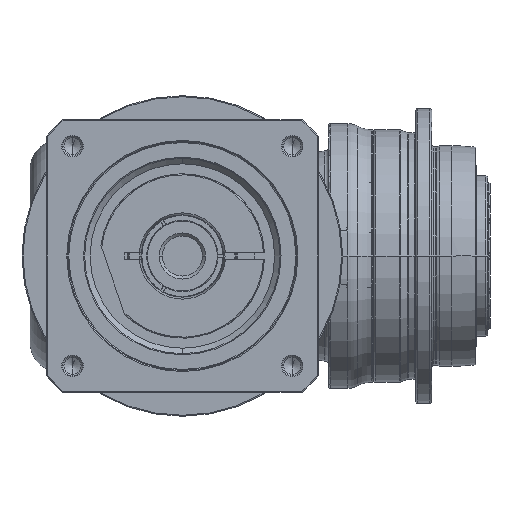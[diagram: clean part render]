
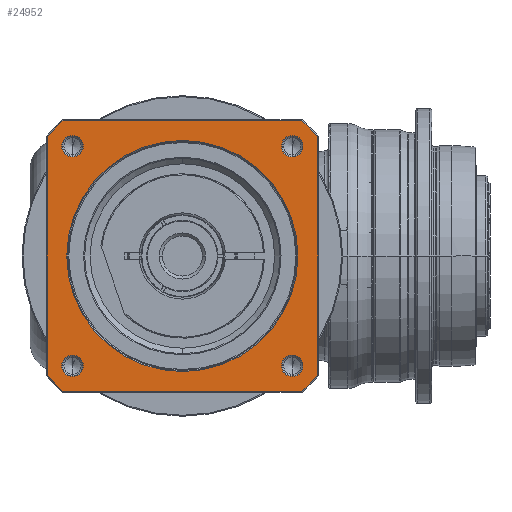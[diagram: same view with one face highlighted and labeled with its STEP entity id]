
A CAD part, front view. The second image highlights one B-rep face of the part: STEP entity #24952.
In plain terms, the highlighted planar face has unit normal (0, -1, 0) as drawn and (0, 0, 1) by its records, which use the part's own axes.
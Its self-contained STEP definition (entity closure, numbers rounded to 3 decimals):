
#23683=DIRECTION('',(1.,0.,0.));
#23684=VECTOR('',#23683,119.059);
#23685=CARTESIAN_POINT('',(-59.529,-67.5,41.));
#23686=LINE('',#23685,#23684);
#23696=CARTESIAN_POINT('',(0.,0.,
41.));
#23697=DIRECTION('',(0.,0.,-1.));
#23698=DIRECTION('',(0.,-1.,0.));
#23699=AXIS2_PLACEMENT_3D('',#23696,#23697,#23698);
#23701=CARTESIAN_POINT('',(0.,0.,
41.));
#23702=DIRECTION('',(0.,0.,-1.));
#23703=DIRECTION('',(0.,1.,0.));
#23704=AXIS2_PLACEMENT_3D('',#23701,#23702,#23703);
#23706=CARTESIAN_POINT('',(0.,0.,41.));
#23707=DIRECTION('',(0.,0.,1.));
#23708=DIRECTION('',(-0.75,-0.661,0.));
#23709=AXIS2_PLACEMENT_3D('',#23706,#23707,#23708);
#23721=DIRECTION('',(0.,-1.,0.));
#23722=VECTOR('',#23721,119.059);
#23723=CARTESIAN_POINT('',(-67.5,59.529,41.));
#23724=LINE('',#23723,#23722);
#23734=CARTESIAN_POINT('',(0.,0.,41.));
#23735=DIRECTION('',(0.,0.,1.));
#23736=DIRECTION('',(-0.661,0.75,0.));
#23737=AXIS2_PLACEMENT_3D('',#23734,#23735,#23736);
#23762=DIRECTION('',(-1.,0.,0.));
#23763=VECTOR('',#23762,119.059);
#23764=CARTESIAN_POINT('',(59.529,67.5,41.));
#23765=LINE('',#23764,#23763);
#23770=CARTESIAN_POINT('',(0.,0.,41.));
#23771=DIRECTION('',(0.,0.,1.));
#23772=DIRECTION('',(0.75,0.661,0.));
#23773=AXIS2_PLACEMENT_3D('',#23770,#23771,#23772);
#23785=DIRECTION('',(0.,1.,0.));
#23786=VECTOR('',#23785,119.059);
#23787=CARTESIAN_POINT('',(67.5,-59.529,41.));
#23788=LINE('',#23787,#23786);
#23890=CARTESIAN_POINT('',(0.,0.,41.));
#23891=DIRECTION('',(0.,0.,1.));
#23892=DIRECTION('',(0.661,-0.75,0.));
#23893=AXIS2_PLACEMENT_3D('',#23890,#23891,#23892);
#24169=CARTESIAN_POINT('',(-54.801,54.801,41.));
#24170=DIRECTION('',(0.,0.,1.));
#24171=DIRECTION('',(-1.,0.,0.));
#24172=AXIS2_PLACEMENT_3D('',#24169,#24170,#24171);
#24187=CARTESIAN_POINT('',(-54.801,54.801,41.));
#24188=DIRECTION('',(0.,0.,1.));
#24189=DIRECTION('',(1.,0.,0.));
#24190=AXIS2_PLACEMENT_3D('',#24187,#24188,#24189);
#24223=CARTESIAN_POINT('',(54.801,54.801,41.));
#24224=DIRECTION('',(0.,0.,1.));
#24225=DIRECTION('',(-1.,0.,0.));
#24226=AXIS2_PLACEMENT_3D('',#24223,#24224,#24225);
#24241=CARTESIAN_POINT('',(54.801,54.801,41.));
#24242=DIRECTION('',(0.,0.,1.));
#24243=DIRECTION('',(1.,0.,0.));
#24244=AXIS2_PLACEMENT_3D('',#24241,#24242,#24243);
#24277=CARTESIAN_POINT('',(54.801,-54.801,41.));
#24278=DIRECTION('',(0.,0.,1.));
#24279=DIRECTION('',(-1.,0.,0.));
#24280=AXIS2_PLACEMENT_3D('',#24277,#24278,#24279);
#24295=CARTESIAN_POINT('',(54.801,-54.801,41.));
#24296=DIRECTION('',(0.,0.,1.));
#24297=DIRECTION('',(1.,0.,0.));
#24298=AXIS2_PLACEMENT_3D('',#24295,#24296,#24297);
#24331=CARTESIAN_POINT('',(-54.801,-54.801,41.));
#24332=DIRECTION('',(0.,0.,1.));
#24333=DIRECTION('',(-1.,0.,0.));
#24334=AXIS2_PLACEMENT_3D('',#24331,#24332,#24333);
#24349=CARTESIAN_POINT('',(-54.801,-54.801,41.));
#24350=DIRECTION('',(0.,0.,1.));
#24351=DIRECTION('',(1.,0.,0.));
#24352=AXIS2_PLACEMENT_3D('',#24349,#24350,#24351);
#24393=CARTESIAN_POINT('',(67.5,-59.529,41.));
#24394=CARTESIAN_POINT('',(67.5,59.529,41.));
#24395=VERTEX_POINT('',#24393);
#24396=VERTEX_POINT('',#24394);
#24401=CARTESIAN_POINT('',(59.529,-67.5,41.));
#24402=VERTEX_POINT('',#24401);
#24405=CARTESIAN_POINT('',(-59.529,-67.5,41.));
#24406=VERTEX_POINT('',#24405);
#24409=CARTESIAN_POINT('',(-67.5,-59.529,41.));
#24410=VERTEX_POINT('',#24409);
#24413=CARTESIAN_POINT('',(-67.5,59.529,41.));
#24414=VERTEX_POINT('',#24413);
#24417=CARTESIAN_POINT('',(-59.529,67.5,41.));
#24418=VERTEX_POINT('',#24417);
#24421=CARTESIAN_POINT('',(59.529,67.5,41.));
#24422=VERTEX_POINT('',#24421);
#24471=CARTESIAN_POINT('',(-60.151,54.801,41.));
#24472=CARTESIAN_POINT('',(-49.451,54.801,41.));
#24473=VERTEX_POINT('',#24471);
#24474=VERTEX_POINT('',#24472);
#24505=CARTESIAN_POINT('',(60.151,54.801,41.));
#24506=CARTESIAN_POINT('',(49.451,54.801,41.));
#24507=VERTEX_POINT('',#24505);
#24508=VERTEX_POINT('',#24506);
#24513=CARTESIAN_POINT('',(60.151,-54.801,41.));
#24514=CARTESIAN_POINT('',(49.451,-54.801,41.));
#24515=VERTEX_POINT('',#24513);
#24516=VERTEX_POINT('',#24514);
#24521=CARTESIAN_POINT('',(-49.451,-54.801,41.));
#24522=CARTESIAN_POINT('',(-60.151,-54.801,41.));
#24523=VERTEX_POINT('',#24521);
#24524=VERTEX_POINT('',#24522);
#24529=CARTESIAN_POINT('',(0.,-57.65,41.));
#24530=CARTESIAN_POINT('',(0.,57.65,
41.));
#24531=VERTEX_POINT('',#24529);
#24532=VERTEX_POINT('',#24530);
#24900=CARTESIAN_POINT('',(0.,0.,41.));
#24901=DIRECTION('',(0.,0.,1.));
#24902=DIRECTION('',(1.,0.,0.));
#24903=AXIS2_PLACEMENT_3D('',#24900,#24901,#24902);
#24904=PLANE('',#24903);
#24906=ORIENTED_EDGE('',*,*,#24905,.F.);
#24908=ORIENTED_EDGE('',*,*,#24907,.F.);
#24910=ORIENTED_EDGE('',*,*,#24909,.F.);
#24912=ORIENTED_EDGE('',*,*,#24911,.F.);
#24914=ORIENTED_EDGE('',*,*,#24913,.F.);
#24916=ORIENTED_EDGE('',*,*,#24915,.F.);
#24918=ORIENTED_EDGE('',*,*,#24917,.F.);
#24919=ORIENTED_EDGE('',*,*,#24890,.F.);
#24920=EDGE_LOOP('',(#24906,#24908,#24910,#24912,#24914,#24916,#24918,#24919));
#24921=FACE_OUTER_BOUND('',#24920,.F.);
#24923=ORIENTED_EDGE('',*,*,#24922,.F.);
#24925=ORIENTED_EDGE('',*,*,#24924,.F.);
#24926=EDGE_LOOP('',(#24923,#24925));
#24927=FACE_BOUND('',#24926,.F.);
#24929=ORIENTED_EDGE('',*,*,#24928,.T.);
#24931=ORIENTED_EDGE('',*,*,#24930,.T.);
#24932=EDGE_LOOP('',(#24929,#24931));
#24933=FACE_BOUND('',#24932,.F.);
#24935=ORIENTED_EDGE('',*,*,#24934,.T.);
#24937=ORIENTED_EDGE('',*,*,#24936,.T.);
#24938=EDGE_LOOP('',(#24935,#24937));
#24939=FACE_BOUND('',#24938,.F.);
#24941=ORIENTED_EDGE('',*,*,#24940,.T.);
#24943=ORIENTED_EDGE('',*,*,#24942,.T.);
#24944=EDGE_LOOP('',(#24941,#24943));
#24945=FACE_BOUND('',#24944,.F.);
#24947=ORIENTED_EDGE('',*,*,#24946,.T.);
#24949=ORIENTED_EDGE('',*,*,#24948,.T.);
#24950=EDGE_LOOP('',(#24947,#24949));
#24951=FACE_BOUND('',#24950,.F.);
#24952=ADVANCED_FACE('',(#24921,#24927,#24933,#24939,#24945,#24951),#24904,.T.);
#23700=CIRCLE('',#23699,57.65);
#23705=CIRCLE('',#23704,57.65);
#23710=CIRCLE('',#23709,90.);
#23738=CIRCLE('',#23737,90.);
#23774=CIRCLE('',#23773,90.);
#23894=CIRCLE('',#23893,90.);
#24173=CIRCLE('',#24172,5.35);
#24191=CIRCLE('',#24190,5.35);
#24227=CIRCLE('',#24226,5.35);
#24245=CIRCLE('',#24244,5.35);
#24281=CIRCLE('',#24280,5.35);
#24299=CIRCLE('',#24298,5.35);
#24335=CIRCLE('',#24334,5.35);
#24353=CIRCLE('',#24352,5.35);
#24890=EDGE_CURVE('',#24406,#24402,#23686,.T.);
#24905=EDGE_CURVE('',#24410,#24406,#23710,.T.);
#24907=EDGE_CURVE('',#24414,#24410,#23724,.T.);
#24909=EDGE_CURVE('',#24418,#24414,#23738,.T.);
#24911=EDGE_CURVE('',#24422,#24418,#23765,.T.);
#24913=EDGE_CURVE('',#24396,#24422,#23774,.T.);
#24915=EDGE_CURVE('',#24395,#24396,#23788,.T.);
#24917=EDGE_CURVE('',#24402,#24395,#23894,.T.);
#24922=EDGE_CURVE('',#24531,#24532,#23700,.T.);
#24924=EDGE_CURVE('',#24532,#24531,#23705,.T.);
#24928=EDGE_CURVE('',#24473,#24474,#24173,.T.);
#24930=EDGE_CURVE('',#24474,#24473,#24191,.T.);
#24934=EDGE_CURVE('',#24508,#24507,#24227,.T.);
#24936=EDGE_CURVE('',#24507,#24508,#24245,.T.);
#24940=EDGE_CURVE('',#24516,#24515,#24281,.T.);
#24942=EDGE_CURVE('',#24515,#24516,#24299,.T.);
#24946=EDGE_CURVE('',#24524,#24523,#24335,.T.);
#24948=EDGE_CURVE('',#24523,#24524,#24353,.T.);
